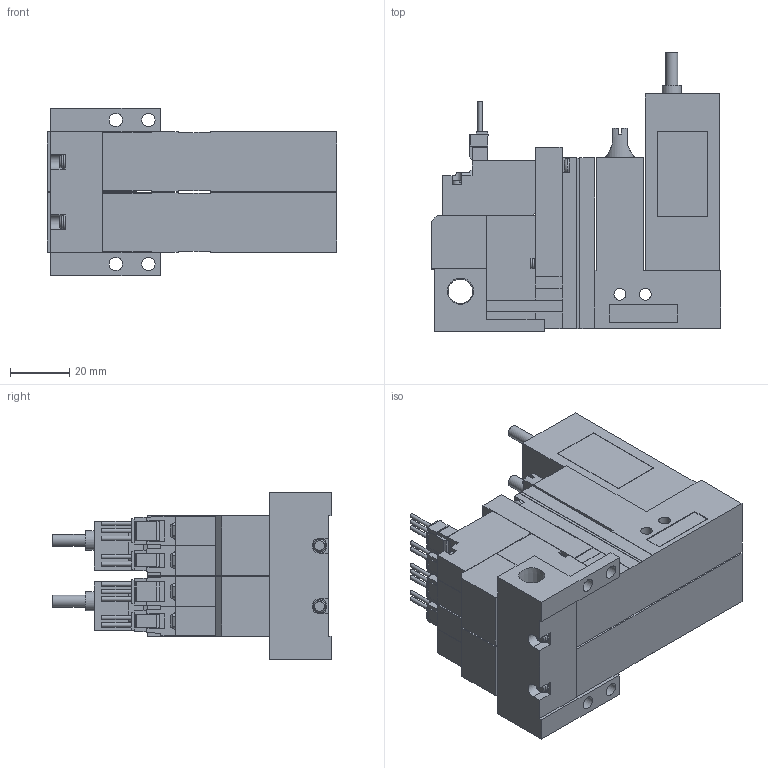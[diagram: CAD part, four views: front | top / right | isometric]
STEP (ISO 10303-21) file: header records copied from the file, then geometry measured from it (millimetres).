
FILE_DESCRIPTION(('STEP AP203'),'1');
FILE_NAME('VG_VGPLC5WLR202.stp','2025-02-18T07:07:40',(' '),(' '),'Spatial InterOp 3D',' ',' ');
FILE_SCHEMA(('CONFIG_CONTROL_DESIGN'));
Length unit declared in the file: millimetre
Products named in the file (5): BMC22M※※※※VG_VGPLC5WLR202; Solenoid valve W; Pressure sensor VGLC; Unit LC; Base MR20R
Assembly tree (7 placements, depth 2):
  BMC22M※※※※VG_VGPLC5WLR202
    Solenoid valve W  x2
    Pressure sensor VGLC  x2
    Unit LC  x2
    Base MR20R
Bounding box: 97.6 x 94 x 56.5 mm (x, y, z)
Volume: 229370.5 mm3; surface area: 60089 mm2
Topology: 7 solids, 7 shells, 813 faces, 2177 edges, 1436 vertices
Faces by surface type: plane 686, cylinder 101, cone 16, torus 10
Full cylindrical faces by diameter (mm): 1.4 x10, 2.5 x6, 3 x8, 3.5 x8, 3.6 x2, 4 x12, 4.134 x2, 4.5 x4, 5.2 x2, 6 x2, 6.5 x2, 6.6 x2, 8.279 x1
Entity records: 13361 total; most frequent: CARTESIAN_POINT 2492, ORIENTED_EDGE 2146, DIRECTION 2113, EDGE_CURVE 1073, LINE 901, VECTOR 901, VERTEX_POINT 739, AXIS2_PLACEMENT_3D 606
